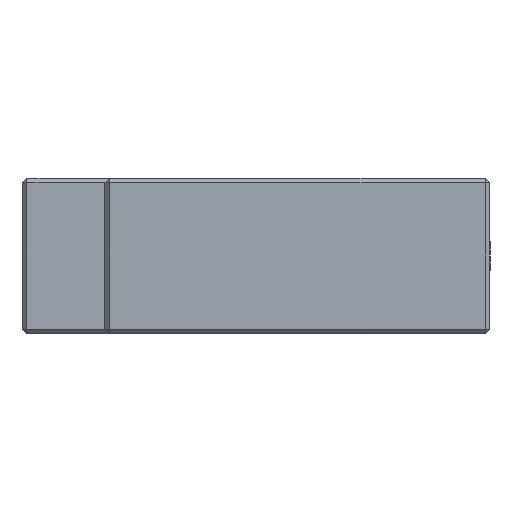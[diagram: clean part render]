
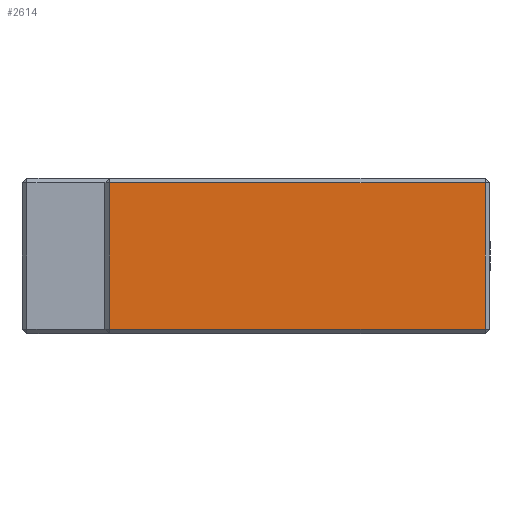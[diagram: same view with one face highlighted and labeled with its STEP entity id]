
A CAD part, left-side view. The second image highlights one B-rep face of the part: STEP entity #2614.
In plain terms, the highlighted planar face has unit normal (-1, 0, 0).
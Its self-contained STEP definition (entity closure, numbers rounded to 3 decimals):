
#100 = DIRECTION ( 'NONE',  ( 0., 0., -1. ) ) ;
#227 = CARTESIAN_POINT ( 'NONE',  ( -70., 78., 16. ) ) ;
#302 = DIRECTION ( 'NONE',  ( 0., 1., 0. ) ) ;
#320 = ORIENTED_EDGE ( 'NONE', *, *, #1265, .T. ) ;
#376 = CARTESIAN_POINT ( 'NONE',  ( -70., 79., 15. ) ) ;
#470 = CARTESIAN_POINT ( 'NONE',  ( -70., 78., -15. ) ) ;
#628 = FACE_OUTER_BOUND ( 'NONE', #1523, .T. ) ;
#733 = CARTESIAN_POINT ( 'NONE',  ( -70., 78., 15. ) ) ;
#1017 = EDGE_CURVE ( 'NONE', #2400, #4562, #4705, .T. ) ;
#1265 = EDGE_CURVE ( 'NONE', #2651, #2747, #4540, .T. ) ;
#1523 = EDGE_LOOP ( 'NONE', ( #2385, #320, #2499, #3466 ) ) ;
#1644 = EDGE_CURVE ( 'NONE', #4562, #2651, #3165, .T. ) ;
#1700 = VECTOR ( 'NONE', #3596, 1000. ) ;
#2116 = VECTOR ( 'NONE', #302, 1000. ) ;
#2231 = LINE ( 'NONE', #376, #2116 ) ;
#2385 = ORIENTED_EDGE ( 'NONE', *, *, #1644, .T. ) ;
#2400 = VERTEX_POINT ( 'NONE', #733 ) ;
#2499 = ORIENTED_EDGE ( 'NONE', *, *, #2504, .T. ) ;
#2504 = EDGE_CURVE ( 'NONE', #2747, #2400, #2231, .T. ) ;
#2529 = AXIS2_PLACEMENT_3D ( 'NONE', #4851, #4730, #4741 ) ;
#2614 = ADVANCED_FACE ( 'NONE', ( #628 ), #4762, .F. ) ;
#2651 = VERTEX_POINT ( 'NONE', #4558 ) ;
#2747 = VERTEX_POINT ( 'NONE', #3284 ) ;
#2772 = VECTOR ( 'NONE', #100, 1000. ) ;
#3125 = DIRECTION ( 'NONE',  ( 0., -1., 0. ) ) ;
#3165 = LINE ( 'NONE', #3807, #4023 ) ;
#3284 = CARTESIAN_POINT ( 'NONE',  ( -70., 1., 15. ) ) ;
#3466 = ORIENTED_EDGE ( 'NONE', *, *, #1017, .T. ) ;
#3596 = DIRECTION ( 'NONE',  ( 0., 0., 1. ) ) ;
#3647 = CARTESIAN_POINT ( 'NONE',  ( -70., 1., 16. ) ) ;
#3807 = CARTESIAN_POINT ( 'NONE',  ( -70., 79., -15. ) ) ;
#4023 = VECTOR ( 'NONE', #3125, 1000. ) ;
#4540 = LINE ( 'NONE', #3647, #1700 ) ;
#4558 = CARTESIAN_POINT ( 'NONE',  ( -70., 1., -15. ) ) ;
#4562 = VERTEX_POINT ( 'NONE', #470 ) ;
#4705 = LINE ( 'NONE', #227, #2772 ) ;
#4730 = DIRECTION ( 'NONE',  ( 1., 0., 0. ) ) ;
#4741 = DIRECTION ( 'NONE',  ( 0., 1., 0. ) ) ;
#4762 = PLANE ( 'NONE',  #2529 ) ;
#4851 = CARTESIAN_POINT ( 'NONE',  ( -70., 79., 16. ) ) ;
